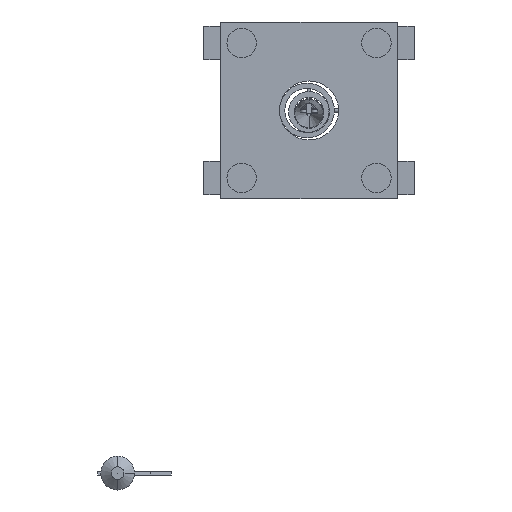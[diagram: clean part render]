
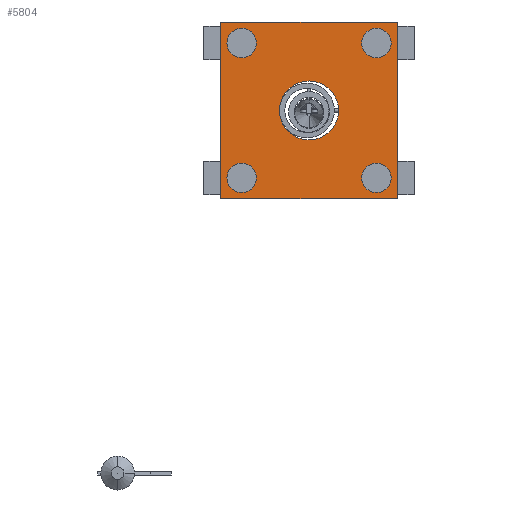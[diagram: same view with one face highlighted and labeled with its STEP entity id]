
A CAD part, front view. The second image highlights one B-rep face of the part: STEP entity #5804.
In plain terms, the highlighted planar face has unit normal (0, -1, 0).
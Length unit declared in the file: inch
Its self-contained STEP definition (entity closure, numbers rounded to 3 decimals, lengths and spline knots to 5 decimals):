
#42 = DIRECTION ( 'NONE',  ( -1., 0., 0. ) ) ;
#81 = ORIENTED_EDGE ( 'NONE', *, *, #3686, .F. ) ;
#103 = VECTOR ( 'NONE', #6558, 39.37008 ) ;
#167 = EDGE_LOOP ( 'NONE', ( #3055, #5158 ) ) ;
#304 = CARTESIAN_POINT ( 'NONE',  ( 0., -196.85039, 0. ) ) ;
#416 = DIRECTION ( 'NONE',  ( 1., 0., 0. ) ) ;
#423 = DIRECTION ( 'NONE',  ( 0., 1., 0. ) ) ;
#434 = CARTESIAN_POINT ( 'NONE',  ( 0., -196.85039, 0. ) ) ;
#463 = DIRECTION ( 'NONE',  ( 0., 1., 0. ) ) ;
#517 = CIRCLE ( 'NONE', #2740, 275.59055 ) ;
#548 = VERTEX_POINT ( 'NONE', #6478 ) ;
#577 = CARTESIAN_POINT ( 'NONE',  ( 1653.54331, -196.85039, 1653.54331 ) ) ;
#598 = EDGE_LOOP ( 'NONE', ( #8337, #4231 ) ) ;
#608 = EDGE_CURVE ( 'NONE', #965, #7416, #8013, .T. ) ;
#720 = ORIENTED_EDGE ( 'NONE', *, *, #2110, .T. ) ;
#864 = FACE_BOUND ( 'NONE', #4884, .T. ) ;
#901 = EDGE_LOOP ( 'NONE', ( #7493, #720 ) ) ;
#962 = CARTESIAN_POINT ( 'NONE',  ( -1259.84252, -196.85039, -1535.43307 ) ) ;
#965 = VERTEX_POINT ( 'NONE', #1031 ) ;
#1009 = DIRECTION ( 'NONE',  ( 0., 1., 0. ) ) ;
#1031 = CARTESIAN_POINT ( 'NONE',  ( -1259.84252, -196.85039, -984.25197 ) ) ;
#1034 = CARTESIAN_POINT ( 'NONE',  ( -1653.54331, -196.85039, 1653.54331 ) ) ;
#1090 = AXIS2_PLACEMENT_3D ( 'NONE', #3700, #8391, #2443 ) ;
#1096 = EDGE_CURVE ( 'NONE', #3100, #1510, #7176, .T. ) ;
#1102 = CARTESIAN_POINT ( 'NONE',  ( -1653.54331, -196.85039, 1653.54331 ) ) ;
#1135 = FACE_BOUND ( 'NONE', #167, .T. ) ;
#1150 = CARTESIAN_POINT ( 'NONE',  ( 0., -196.85039, -551.1811 ) ) ;
#1197 = EDGE_CURVE ( 'NONE', #5419, #548, #5733, .T. ) ;
#1302 = ORIENTED_EDGE ( 'NONE', *, *, #1096, .T. ) ;
#1409 = CARTESIAN_POINT ( 'NONE',  ( -1259.84252, -196.85039, -1259.84252 ) ) ;
#1458 = EDGE_CURVE ( 'NONE', #4105, #2889, #2268, .T. ) ;
#1510 = VERTEX_POINT ( 'NONE', #1150 ) ;
#1597 = PLANE ( 'NONE',  #4802 ) ;
#1635 = CARTESIAN_POINT ( 'NONE',  ( 1653.54331, -196.85039, 1653.54331 ) ) ;
#1720 = ORIENTED_EDGE ( 'NONE', *, *, #8323, .T. ) ;
#1768 = CIRCLE ( 'NONE', #3572, 551.1811 ) ;
#1772 = DIRECTION ( 'NONE',  ( 0., 0., 1. ) ) ;
#2008 = CARTESIAN_POINT ( 'NONE',  ( 1259.84252, -196.85039, 984.25197 ) ) ;
#2110 = EDGE_CURVE ( 'NONE', #3209, #4159, #4672, .T. ) ;
#2215 = EDGE_CURVE ( 'NONE', #2933, #6614, #4643, .T. ) ;
#2268 = CIRCLE ( 'NONE', #3371, 275.59055 ) ;
#2350 = EDGE_LOOP ( 'NONE', ( #3063, #3807, #3654, #81 ) ) ;
#2379 = DIRECTION ( 'NONE',  ( 0., 0., -1. ) ) ;
#2443 = DIRECTION ( 'NONE',  ( 0., 0., -1. ) ) ;
#2478 = VECTOR ( 'NONE', #416, 39.37008 ) ;
#2494 = CIRCLE ( 'NONE', #8177, 275.59055 ) ;
#2575 = VERTEX_POINT ( 'NONE', #1034 ) ;
#2740 = AXIS2_PLACEMENT_3D ( 'NONE', #8167, #6897, #4240 ) ;
#2881 = CARTESIAN_POINT ( 'NONE',  ( 0., -196.85039, 0. ) ) ;
#2889 = VERTEX_POINT ( 'NONE', #4795 ) ;
#2933 = VERTEX_POINT ( 'NONE', #1635 ) ;
#3055 = ORIENTED_EDGE ( 'NONE', *, *, #1197, .F. ) ;
#3063 = ORIENTED_EDGE ( 'NONE', *, *, #8477, .F. ) ;
#3100 = VERTEX_POINT ( 'NONE', #7638 ) ;
#3170 = ORIENTED_EDGE ( 'NONE', *, *, #6586, .T. ) ;
#3209 = VERTEX_POINT ( 'NONE', #2008 ) ;
#3279 = AXIS2_PLACEMENT_3D ( 'NONE', #4714, #4657, #3931 ) ;
#3371 = AXIS2_PLACEMENT_3D ( 'NONE', #5752, #463, #2379 ) ;
#3390 = CARTESIAN_POINT ( 'NONE',  ( -1259.84252, -196.85039, 1535.43307 ) ) ;
#3429 = AXIS2_PLACEMENT_3D ( 'NONE', #434, #7718, #1772 ) ;
#3461 = CIRCLE ( 'NONE', #1090, 275.59055 ) ;
#3491 = DIRECTION ( 'NONE',  ( 0., 0., 1. ) ) ;
#3550 = DIRECTION ( 'NONE',  ( 0., -1., 0. ) ) ;
#3572 = AXIS2_PLACEMENT_3D ( 'NONE', #2881, #3573, #3491 ) ;
#3573 = DIRECTION ( 'NONE',  ( 0., 1., 0. ) ) ;
#3609 = DIRECTION ( 'NONE',  ( 0., 0., -1. ) ) ;
#3654 = ORIENTED_EDGE ( 'NONE', *, *, #2215, .F. ) ;
#3676 = EDGE_CURVE ( 'NONE', #7416, #965, #3461, .T. ) ;
#3686 = EDGE_CURVE ( 'NONE', #2575, #2933, #5663, .T. ) ;
#3700 = CARTESIAN_POINT ( 'NONE',  ( -1259.84252, -196.85039, -1259.84252 ) ) ;
#3807 = ORIENTED_EDGE ( 'NONE', *, *, #7565, .F. ) ;
#3931 = DIRECTION ( 'NONE',  ( 0., 0., -1. ) ) ;
#3978 = AXIS2_PLACEMENT_3D ( 'NONE', #5612, #1009, #5660 ) ;
#4105 = VERTEX_POINT ( 'NONE', #3390 ) ;
#4159 = VERTEX_POINT ( 'NONE', #6299 ) ;
#4190 = DIRECTION ( 'NONE',  ( 0., 0., -1. ) ) ;
#4231 = ORIENTED_EDGE ( 'NONE', *, *, #3676, .F. ) ;
#4240 = DIRECTION ( 'NONE',  ( 0., 0., -1. ) ) ;
#4560 = VECTOR ( 'NONE', #6686, 39.37008 ) ;
#4643 = LINE ( 'NONE', #577, #103 ) ;
#4657 = DIRECTION ( 'NONE',  ( 0., 1., 0. ) ) ;
#4672 = CIRCLE ( 'NONE', #3978, 275.59055 ) ;
#4701 = DIRECTION ( 'NONE',  ( 0., -1., 0. ) ) ;
#4714 = CARTESIAN_POINT ( 'NONE',  ( 1259.84252, -196.85039, 1259.84252 ) ) ;
#4795 = CARTESIAN_POINT ( 'NONE',  ( -1259.84252, -196.85039, 984.25197 ) ) ;
#4802 = AXIS2_PLACEMENT_3D ( 'NONE', #304, #3550, #3609 ) ;
#4864 = EDGE_CURVE ( 'NONE', #4159, #3209, #6078, .T. ) ;
#4884 = EDGE_LOOP ( 'NONE', ( #6024, #1720 ) ) ;
#5024 = VERTEX_POINT ( 'NONE', #7496 ) ;
#5100 = AXIS2_PLACEMENT_3D ( 'NONE', #1409, #4701, #7483 ) ;
#5158 = ORIENTED_EDGE ( 'NONE', *, *, #5817, .F. ) ;
#5196 = DIRECTION ( 'NONE',  ( 0., -1., 0. ) ) ;
#5361 = CARTESIAN_POINT ( 'NONE',  ( 1259.84252, -196.85039, -1259.84252 ) ) ;
#5419 = VERTEX_POINT ( 'NONE', #8518 ) ;
#5612 = CARTESIAN_POINT ( 'NONE',  ( 1259.84252, -196.85039, 1259.84252 ) ) ;
#5660 = DIRECTION ( 'NONE',  ( 0., 0., -1. ) ) ;
#5663 = LINE ( 'NONE', #1102, #2478 ) ;
#5733 = CIRCLE ( 'NONE', #8103, 275.59055 ) ;
#5752 = CARTESIAN_POINT ( 'NONE',  ( -1259.84252, -196.85039, 1259.84252 ) ) ;
#5804 = ADVANCED_FACE ( 'NONE', ( #7088, #1135, #864, #7421, #6851, #6157 ), #1597, .T. ) ;
#5817 = EDGE_CURVE ( 'NONE', #548, #5419, #517, .T. ) ;
#5860 = LINE ( 'NONE', #7907, #8027 ) ;
#6024 = ORIENTED_EDGE ( 'NONE', *, *, #1458, .T. ) ;
#6078 = CIRCLE ( 'NONE', #3279, 275.59055 ) ;
#6157 = FACE_OUTER_BOUND ( 'NONE', #2350, .T. ) ;
#6299 = CARTESIAN_POINT ( 'NONE',  ( 1259.84252, -196.85039, 1535.43307 ) ) ;
#6366 = CARTESIAN_POINT ( 'NONE',  ( -1259.84252, -196.85039, 1259.84252 ) ) ;
#6478 = CARTESIAN_POINT ( 'NONE',  ( 1259.84252, -196.85039, -1535.43307 ) ) ;
#6558 = DIRECTION ( 'NONE',  ( 0., 0., -1. ) ) ;
#6586 = EDGE_CURVE ( 'NONE', #1510, #3100, #1768, .T. ) ;
#6614 = VERTEX_POINT ( 'NONE', #6872 ) ;
#6686 = DIRECTION ( 'NONE',  ( 0., 0., 1. ) ) ;
#6851 = FACE_BOUND ( 'NONE', #7382, .T. ) ;
#6872 = CARTESIAN_POINT ( 'NONE',  ( 1653.54331, -196.85039, -1653.54331 ) ) ;
#6897 = DIRECTION ( 'NONE',  ( 0., -1., 0. ) ) ;
#7088 = FACE_BOUND ( 'NONE', #598, .T. ) ;
#7176 = CIRCLE ( 'NONE', #3429, 551.1811 ) ;
#7293 = LINE ( 'NONE', #8399, #4560 ) ;
#7382 = EDGE_LOOP ( 'NONE', ( #1302, #3170 ) ) ;
#7416 = VERTEX_POINT ( 'NONE', #962 ) ;
#7421 = FACE_BOUND ( 'NONE', #901, .T. ) ;
#7483 = DIRECTION ( 'NONE',  ( 0., 0., -1. ) ) ;
#7493 = ORIENTED_EDGE ( 'NONE', *, *, #4864, .T. ) ;
#7496 = CARTESIAN_POINT ( 'NONE',  ( -1653.54331, -196.85039, -1653.54331 ) ) ;
#7565 = EDGE_CURVE ( 'NONE', #6614, #5024, #5860, .T. ) ;
#7638 = CARTESIAN_POINT ( 'NONE',  ( 0., -196.85039, 551.1811 ) ) ;
#7718 = DIRECTION ( 'NONE',  ( 0., 1., 0. ) ) ;
#7898 = DIRECTION ( 'NONE',  ( 0., 0., -1. ) ) ;
#7907 = CARTESIAN_POINT ( 'NONE',  ( -1653.54331, -196.85039, -1653.54331 ) ) ;
#8013 = CIRCLE ( 'NONE', #5100, 275.59055 ) ;
#8027 = VECTOR ( 'NONE', #42, 39.37008 ) ;
#8103 = AXIS2_PLACEMENT_3D ( 'NONE', #5361, #5196, #7898 ) ;
#8167 = CARTESIAN_POINT ( 'NONE',  ( 1259.84252, -196.85039, -1259.84252 ) ) ;
#8177 = AXIS2_PLACEMENT_3D ( 'NONE', #6366, #423, #4190 ) ;
#8323 = EDGE_CURVE ( 'NONE', #2889, #4105, #2494, .T. ) ;
#8337 = ORIENTED_EDGE ( 'NONE', *, *, #608, .F. ) ;
#8391 = DIRECTION ( 'NONE',  ( 0., -1., 0. ) ) ;
#8399 = CARTESIAN_POINT ( 'NONE',  ( -1653.54331, -196.85039, 1653.54331 ) ) ;
#8477 = EDGE_CURVE ( 'NONE', #5024, #2575, #7293, .T. ) ;
#8518 = CARTESIAN_POINT ( 'NONE',  ( 1259.84252, -196.85039, -984.25197 ) ) ;
